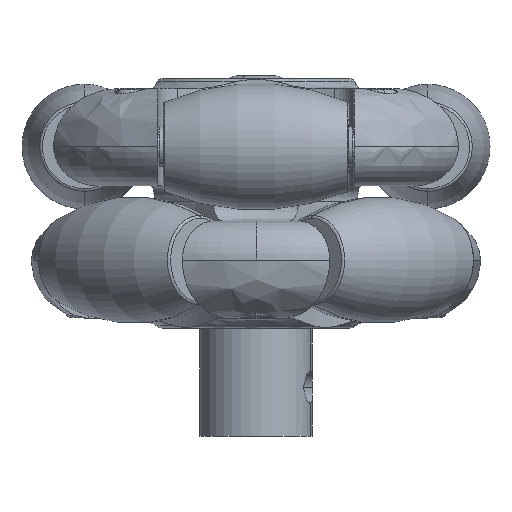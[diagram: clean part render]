
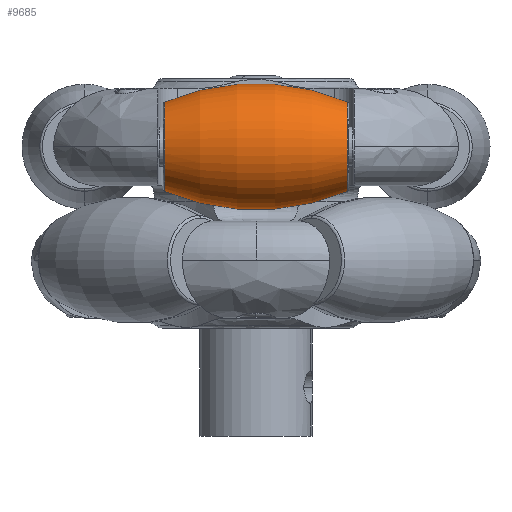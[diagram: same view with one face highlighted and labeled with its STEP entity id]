
A CAD part, front view. The second image highlights one B-rep face of the part: STEP entity #9685.
In plain terms, the highlighted toroidal (fillet/blend) face has major radius 17.55 mm and minor radius 24 mm.
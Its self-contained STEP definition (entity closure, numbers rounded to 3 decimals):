
#21 = AXIS2_PLACEMENT_3D ( 'NONE', #2398, #14090, #16913 ) ;
#156 = VERTEX_POINT ( 'NONE', #18696 ) ;
#679 = VERTEX_POINT ( 'NONE', #12841 ) ;
#894 = DIRECTION ( 'NONE',  ( 0., 1., 0. ) ) ;
#1189 = DIRECTION ( 'NONE',  ( 0., 0., -1. ) ) ;
#1398 = DIRECTION ( 'NONE',  ( -1., 0., 0. ) ) ;
#2398 = CARTESIAN_POINT ( 'NONE',  ( 0., 0., 0. ) ) ;
#3914 = AXIS2_PLACEMENT_3D ( 'NONE', #15762, #18511, #1189 ) ;
#4344 = AXIS2_PLACEMENT_3D ( 'NONE', #12408, #6404, #9792 ) ;
#6404 = DIRECTION ( 'NONE',  ( 0., -1., 0. ) ) ;
#8278 = CIRCLE ( 'NONE', #11198, 24. ) ;
#9000 = ORIENTED_EDGE ( 'NONE', *, *, #11660, .T. ) ;
#9251 = ORIENTED_EDGE ( 'NONE', *, *, #9791, .T. ) ;
#9685 = ADVANCED_FACE ( 'NONE', ( #16464 ), #14198, .T. ) ;
#9705 = CARTESIAN_POINT ( 'NONE',  ( 0., 0., 17.55 ) ) ;
#9791 = EDGE_CURVE ( 'NONE', #156, #679, #11941, .T. ) ;
#9792 = DIRECTION ( 'NONE',  ( 0., 0., -1. ) ) ;
#10142 = CARTESIAN_POINT ( 'NONE',  ( 9.316, 0., -4.568 ) ) ;
#10201 = ORIENTED_EDGE ( 'NONE', *, *, #13769, .F. ) ;
#10765 = CIRCLE ( 'NONE', #14453, 4.568 ) ;
#11198 = AXIS2_PLACEMENT_3D ( 'NONE', #9705, #894, #15572 ) ;
#11660 = EDGE_CURVE ( 'NONE', #12893, #156, #8278, .T. ) ;
#11941 = CIRCLE ( 'NONE', #3914, 4.568 ) ;
#12298 = ORIENTED_EDGE ( 'NONE', *, *, #13443, .T. ) ;
#12408 = CARTESIAN_POINT ( 'NONE',  ( 0., 0., -17.55 ) ) ;
#12841 = CARTESIAN_POINT ( 'NONE',  ( -9.316, 0., 4.568 ) ) ;
#12893 = VERTEX_POINT ( 'NONE', #10142 ) ;
#13081 = CARTESIAN_POINT ( 'NONE',  ( 9.316, 0., 0. ) ) ;
#13443 = EDGE_CURVE ( 'NONE', #16926, #12893, #10765, .T. ) ;
#13769 = EDGE_CURVE ( 'NONE', #16926, #679, #18643, .T. ) ;
#14090 = DIRECTION ( 'NONE',  ( -1., 0., 0. ) ) ;
#14198 = TOROIDAL_SURFACE ( 'NONE', #21, -17.55, 24. ) ;
#14453 = AXIS2_PLACEMENT_3D ( 'NONE', #13081, #1398, #16102 ) ;
#15193 = CARTESIAN_POINT ( 'NONE',  ( 9.316, 0., 4.568 ) ) ;
#15572 = DIRECTION ( 'NONE',  ( 0., 0., 1. ) ) ;
#15762 = CARTESIAN_POINT ( 'NONE',  ( -9.316, 0., 0. ) ) ;
#16102 = DIRECTION ( 'NONE',  ( 0., 0., 1. ) ) ;
#16416 = EDGE_LOOP ( 'NONE', ( #12298, #9000, #9251, #10201 ) ) ;
#16464 = FACE_OUTER_BOUND ( 'NONE', #16416, .T. ) ;
#16913 = DIRECTION ( 'NONE',  ( 0., 0., 1. ) ) ;
#16926 = VERTEX_POINT ( 'NONE', #15193 ) ;
#18511 = DIRECTION ( 'NONE',  ( 1., 0., 0. ) ) ;
#18643 = CIRCLE ( 'NONE', #4344, 24. ) ;
#18696 = CARTESIAN_POINT ( 'NONE',  ( -9.316, 0., -4.568 ) ) ;
